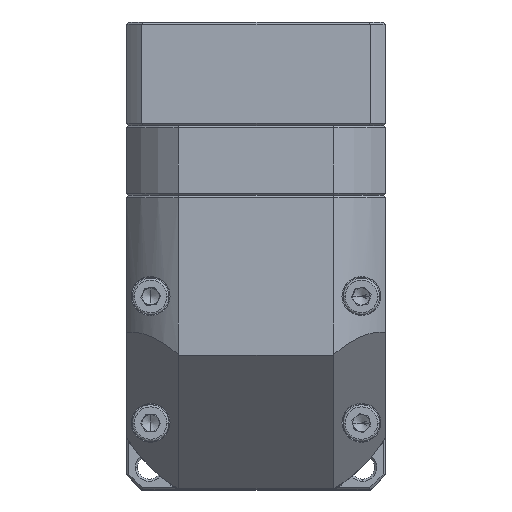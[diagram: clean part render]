
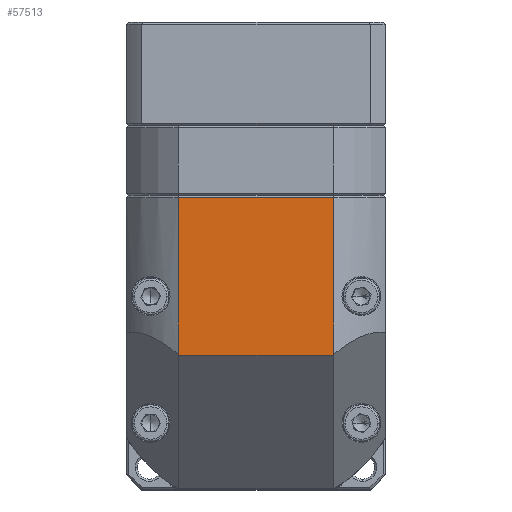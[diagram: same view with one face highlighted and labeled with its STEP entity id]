
A CAD part, top view. The second image highlights one B-rep face of the part: STEP entity #57513.
In plain terms, the highlighted planar face has unit normal (0, 0, 1).
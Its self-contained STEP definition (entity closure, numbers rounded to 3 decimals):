
#376 = EDGE_CURVE ( 'NONE', #67814, #28177, #82353, .T. ) ;
#534 = EDGE_CURVE ( 'NONE', #66973, #67814, #39340, .T. ) ;
#4330 = LINE ( 'NONE', #39810, #60378 ) ;
#8083 = ORIENTED_EDGE ( 'NONE', *, *, #376, .F. ) ;
#11572 = LINE ( 'NONE', #16072, #12610 ) ;
#12205 = VECTOR ( 'NONE', #85965, 1000. ) ;
#12610 = VECTOR ( 'NONE', #43686, 1000. ) ;
#16072 = CARTESIAN_POINT ( 'NONE',  ( 48.028, 31.211, 175. ) ) ;
#16938 = ORIENTED_EDGE ( 'NONE', *, *, #21561, .F. ) ;
#21009 = ORIENTED_EDGE ( 'NONE', *, *, #45613, .F. ) ;
#21460 = DIRECTION ( 'NONE',  ( 0., 1., 0. ) ) ;
#21561 = EDGE_CURVE ( 'NONE', #85937, #35899, #4330, .T. ) ;
#27589 = CARTESIAN_POINT ( 'NONE',  ( 11.972, 0., 175. ) ) ;
#28177 = VERTEX_POINT ( 'NONE', #49918 ) ;
#28305 = PLANE ( 'NONE',  #32563 ) ;
#29977 = CARTESIAN_POINT ( 'NONE',  ( 30., 67.5, 175. ) ) ;
#30895 = CARTESIAN_POINT ( 'NONE',  ( 12.121, 31., 175. ) ) ;
#32563 = AXIS2_PLACEMENT_3D ( 'NONE', #77822, #85777, #84865 ) ;
#33119 = EDGE_CURVE ( 'NONE', #85937, #83206, #69312, .T. ) ;
#33481 = CARTESIAN_POINT ( 'NONE',  ( 47.879, 31., 175. ) ) ;
#35899 = VERTEX_POINT ( 'NONE', #89598 ) ;
#39340 = LINE ( 'NONE', #61671, #44923 ) ;
#39810 = CARTESIAN_POINT ( 'NONE',  ( 48.028, 0., 175. ) ) ;
#41713 = EDGE_LOOP ( 'NONE', ( #16938, #50099, #62370, #8083, #75867, #21009 ) ) ;
#41934 = FACE_OUTER_BOUND ( 'NONE', #41713, .T. ) ;
#43284 = VECTOR ( 'NONE', #21460, 1000. ) ;
#43686 = DIRECTION ( 'NONE',  ( -0.577, -0.816, 0. ) ) ;
#44923 = VECTOR ( 'NONE', #68428, 1000. ) ;
#45613 = EDGE_CURVE ( 'NONE', #35899, #66973, #11572, .T. ) ;
#49918 = CARTESIAN_POINT ( 'NONE',  ( 11.972, 31.211, 175. ) ) ;
#50099 = ORIENTED_EDGE ( 'NONE', *, *, #33119, .T. ) ;
#57513 = ADVANCED_FACE ( 'NONE', ( #41934 ), #28305, .T. ) ;
#58135 = VECTOR ( 'NONE', #73386, 1000. ) ;
#60378 = VECTOR ( 'NONE', #89637, 1000. ) ;
#61671 = CARTESIAN_POINT ( 'NONE',  ( 0., 31., 175. ) ) ;
#62370 = ORIENTED_EDGE ( 'NONE', *, *, #64288, .F. ) ;
#64288 = EDGE_CURVE ( 'NONE', #28177, #83206, #68654, .T. ) ;
#66973 = VERTEX_POINT ( 'NONE', #33481 ) ;
#67814 = VERTEX_POINT ( 'NONE', #74751 ) ;
#68428 = DIRECTION ( 'NONE',  ( -1., 0., 0. ) ) ;
#68654 = LINE ( 'NONE', #27589, #43284 ) ;
#69312 = LINE ( 'NONE', #29977, #12205 ) ;
#73386 = DIRECTION ( 'NONE',  ( -0.577, 0.816, 0. ) ) ;
#74751 = CARTESIAN_POINT ( 'NONE',  ( 12.121, 31., 175. ) ) ;
#75867 = ORIENTED_EDGE ( 'NONE', *, *, #534, .F. ) ;
#77822 = CARTESIAN_POINT ( 'NONE',  ( 30., 30., 175. ) ) ;
#82353 = LINE ( 'NONE', #30895, #58135 ) ;
#83205 = CARTESIAN_POINT ( 'NONE',  ( 48.028, 67.5, 175. ) ) ;
#83206 = VERTEX_POINT ( 'NONE', #88306 ) ;
#84865 = DIRECTION ( 'NONE',  ( -1., 0., 0. ) ) ;
#85777 = DIRECTION ( 'NONE',  ( 0., 0., 1. ) ) ;
#85937 = VERTEX_POINT ( 'NONE', #83205 ) ;
#85965 = DIRECTION ( 'NONE',  ( -1., 0., 0. ) ) ;
#88306 = CARTESIAN_POINT ( 'NONE',  ( 11.972, 67.5, 175. ) ) ;
#89598 = CARTESIAN_POINT ( 'NONE',  ( 48.028, 31.211, 175. ) ) ;
#89637 = DIRECTION ( 'NONE',  ( 0., -1., 0. ) ) ;
